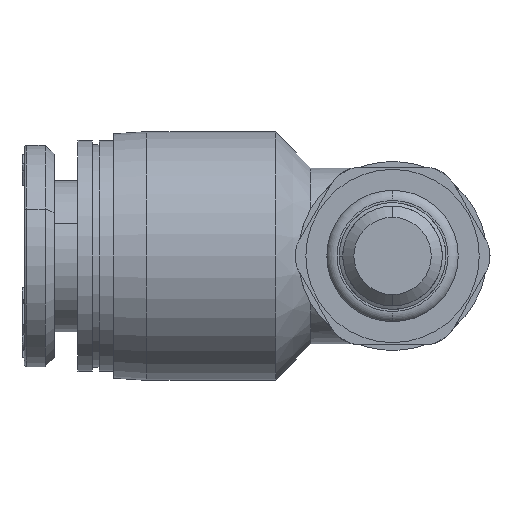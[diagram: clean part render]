
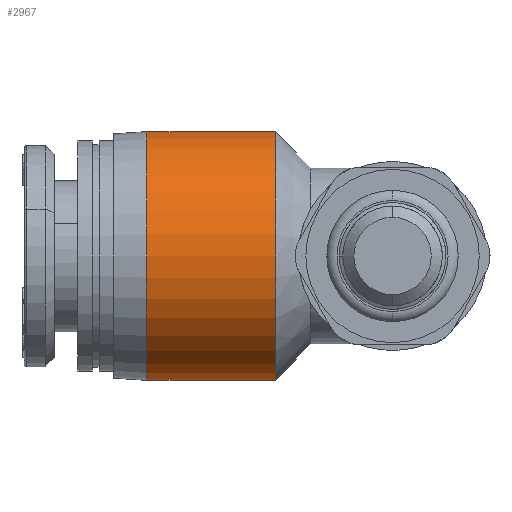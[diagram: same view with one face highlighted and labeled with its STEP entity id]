
A CAD part, front view. The second image highlights one B-rep face of the part: STEP entity #2967.
In plain terms, the highlighted cylindrical face has radius 5.6 mm (diameter 11.2 mm), a partial arc.
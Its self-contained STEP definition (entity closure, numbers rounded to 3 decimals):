
#112 = AXIS2_PLACEMENT_3D ( 'NONE', #3749, #2592, #5942 ) ;
#120 = EDGE_LOOP ( 'NONE', ( #3141, #269, #6872, #5490 ) ) ;
#235 = CARTESIAN_POINT ( 'NONE',  ( -3.1, 0., 5.6 ) ) ;
#269 = ORIENTED_EDGE ( 'NONE', *, *, #815, .T. ) ;
#617 = DIRECTION ( 'NONE',  ( 0., 0., 1. ) ) ;
#815 = EDGE_CURVE ( 'NONE', #2057, #4262, #4294, .T. ) ;
#1314 = VERTEX_POINT ( 'NONE', #3786 ) ;
#1436 = FACE_OUTER_BOUND ( 'NONE', #120, .T. ) ;
#1792 = DIRECTION ( 'NONE',  ( -1., 0., 0. ) ) ;
#1812 = VECTOR ( 'NONE', #6282, 1000. ) ;
#1891 = VERTEX_POINT ( 'NONE', #4085 ) ;
#2057 = VERTEX_POINT ( 'NONE', #5713 ) ;
#2414 = LINE ( 'NONE', #4329, #6609 ) ;
#2592 = DIRECTION ( 'NONE',  ( -1., 0., 0. ) ) ;
#2603 = DIRECTION ( 'NONE',  ( -1., 0., 0. ) ) ;
#2685 = CIRCLE ( 'NONE', #112, 5.6 ) ;
#2740 = LINE ( 'NONE', #235, #1812 ) ;
#2909 = AXIS2_PLACEMENT_3D ( 'NONE', #6706, #1792, #5699 ) ;
#2967 = ADVANCED_FACE ( 'NONE', ( #1436 ), #4791, .T. ) ;
#3141 = ORIENTED_EDGE ( 'NONE', *, *, #6723, .F. ) ;
#3749 = CARTESIAN_POINT ( 'NONE',  ( 0., 0., 0. ) ) ;
#3786 = CARTESIAN_POINT ( 'NONE',  ( 0., 0., -5.6 ) ) ;
#3871 = CARTESIAN_POINT ( 'NONE',  ( 5.8, 0., 5.6 ) ) ;
#4085 = CARTESIAN_POINT ( 'NONE',  ( 0., 0., 5.6 ) ) ;
#4262 = VERTEX_POINT ( 'NONE', #3871 ) ;
#4294 = CIRCLE ( 'NONE', #4882, 5.6 ) ;
#4329 = CARTESIAN_POINT ( 'NONE',  ( -3.1, 0., -5.6 ) ) ;
#4791 = CYLINDRICAL_SURFACE ( 'NONE', #2909, 5.6 ) ;
#4882 = AXIS2_PLACEMENT_3D ( 'NONE', #5538, #5001, #617 ) ;
#5001 = DIRECTION ( 'NONE',  ( -1., 0., 0. ) ) ;
#5111 = EDGE_CURVE ( 'NONE', #1314, #1891, #2685, .T. ) ;
#5490 = ORIENTED_EDGE ( 'NONE', *, *, #5111, .F. ) ;
#5538 = CARTESIAN_POINT ( 'NONE',  ( 5.8, 0., 0. ) ) ;
#5699 = DIRECTION ( 'NONE',  ( 0., 0., 1. ) ) ;
#5713 = CARTESIAN_POINT ( 'NONE',  ( 5.8, 0., -5.6 ) ) ;
#5919 = EDGE_CURVE ( 'NONE', #4262, #1891, #2740, .T. ) ;
#5942 = DIRECTION ( 'NONE',  ( 0., 0., 1. ) ) ;
#6282 = DIRECTION ( 'NONE',  ( -1., 0., 0. ) ) ;
#6609 = VECTOR ( 'NONE', #2603, 1000. ) ;
#6706 = CARTESIAN_POINT ( 'NONE',  ( -3.1, 0., 0. ) ) ;
#6723 = EDGE_CURVE ( 'NONE', #2057, #1314, #2414, .T. ) ;
#6872 = ORIENTED_EDGE ( 'NONE', *, *, #5919, .T. ) ;
